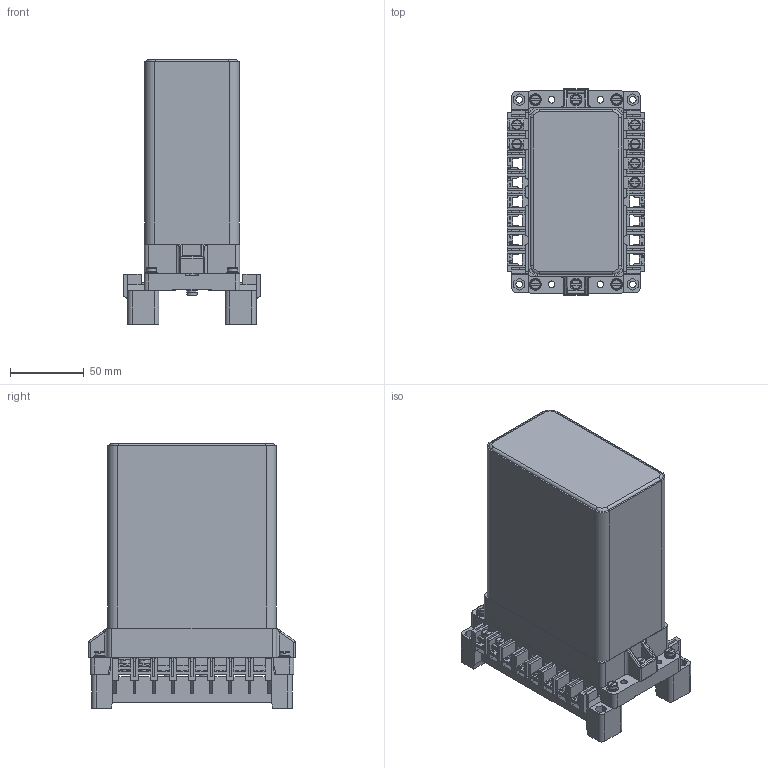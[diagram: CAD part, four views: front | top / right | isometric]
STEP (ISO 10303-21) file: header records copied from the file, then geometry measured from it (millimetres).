
FILE_DESCRIPTION(('STEP AP214'), '1');
FILE_NAME('ÈÀÅÆ.647155.013-74 - ÐÍ-151 ï.ï', '', ('UNSPECIFIED'), ('UNSPECIFIED'), 'ASCON STEP Converter 1.3', 'ASCON Math Kernel', '');
FILE_SCHEMA(('AUTOMOTIVE_DESIGN { 1 0 10303 214 3 1 1}'));
Length unit declared in the file: millimetre
Products named in the file (1): 壤牌.647155.013-74
Bounding box: 93 x 140 x 179.5 mm (x, y, z)
Volume: 1187793.3 mm3; surface area: 138295.2 mm2
Topology: 1 solids, 1 shells, 5252 faces, 14967 edges, 9898 vertices
Faces by surface type: plane 3389, cylinder 1755, torus 64, cone 32, bspline 12
Full cylindrical faces by diameter (mm): 4 x34, 4.3 x12, 4.5 x26, 5 x2, 5.9 x10, 7 x2, 7.5 x10, 8 x8
Entity records: 217038 total; most frequent: CARTESIAN_POINT 35572, ORIENTED_EDGE 29606, DIRECTION 28737, EDGE_CURVE 14803, LINE 10655, VECTOR 10655, VERTEX_POINT 9898, AXIS2_PLACEMENT_3D 9041
